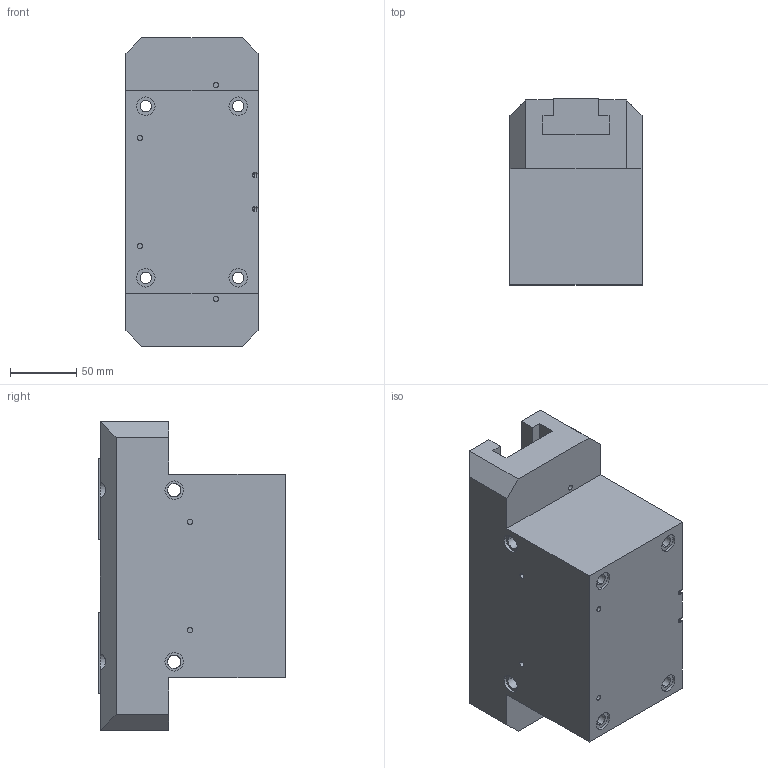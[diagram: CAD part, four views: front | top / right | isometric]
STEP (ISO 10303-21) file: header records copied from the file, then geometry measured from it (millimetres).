
FILE_DESCRIPTION (( 'STEP AP203' ), '1' );
FILE_NAME ('dh8750nc.STEP', '2011-08-03T09:20:15', ( 'Stefano' ), ( 'Gimatic' ), 'SwSTEP 2.0', 'SolidWorks 2010', '' );
FILE_SCHEMA (( 'CONFIG_CONTROL_DESIGN' ));
Length unit declared in the file: millimetre
Products named in the file (3): dh87_griffa; dh87_corpoprolungato; dh8750nc
Assembly tree (3 placements, depth 2):
  dh8750nc
    dh87_griffa  x2
    dh87_corpoprolungato
Bounding box: 100 x 141 x 234 mm (x, y, z)
Volume: 2377230.7 mm3; surface area: 202556.1 mm2
Topology: 3 solids, 3 shells, 192 faces, 492 edges, 312 vertices
Faces by surface type: cylinder 90, plane 90, cone 8, sphere 4
Entity records: 6059 total; most frequent: CARTESIAN_POINT 1584, DIRECTION 890, ORIENTED_EDGE 844, EDGE_CURVE 422, AXIS2_PLACEMENT_3D 324, VERTEX_POINT 274, VECTOR 242, LINE 242
